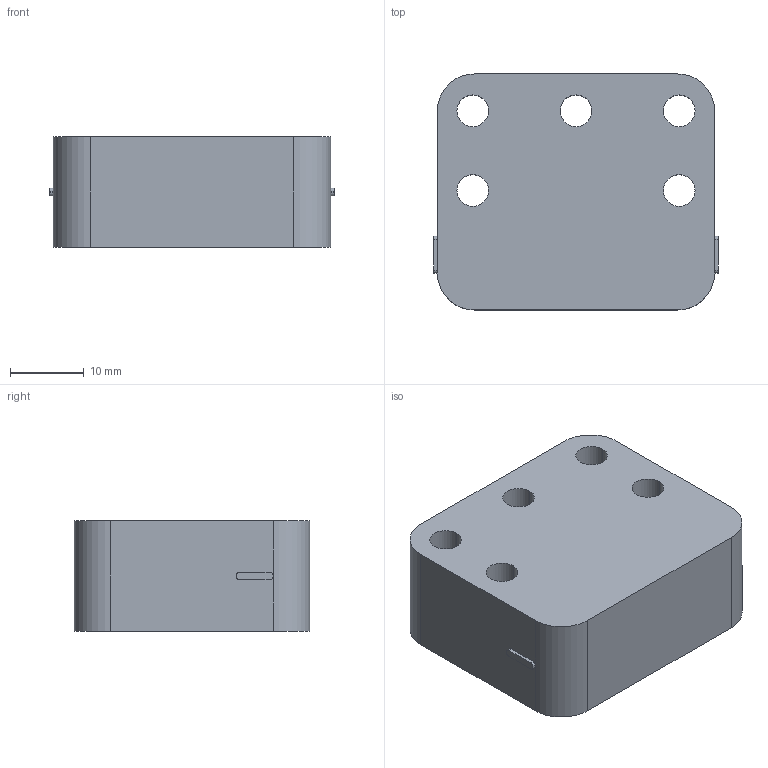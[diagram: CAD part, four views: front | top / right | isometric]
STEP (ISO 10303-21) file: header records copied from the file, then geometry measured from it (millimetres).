
FILE_DESCRIPTION (( 'STEP AP203' ), '1' );
FILE_NAME ('PCUR202X.STEP', '2018-12-17T13:25:23', ( '' ), ( '' ), 'SwSTEP 2.0', 'SolidWorks 2019', '' );
FILE_SCHEMA (( 'CONFIG_CONTROL_DESIGN' ));
Length unit declared in the file: millimetre
Products named in the file (1): PCUR202X
Bounding box: 38.6 x 32 x 15 mm (x, y, z)
Volume: 16641.8 mm3; surface area: 5202 mm2
Topology: 1 solids, 1 shells, 38 faces, 104 edges, 68 vertices
Faces by surface type: cylinder 22, plane 16
Entity records: 1317 total; most frequent: DIRECTION 226, CARTESIAN_POINT 211, ORIENTED_EDGE 208, EDGE_CURVE 104, AXIS2_PLACEMENT_3D 83, VERTEX_POINT 68, LINE 60, VECTOR 60
